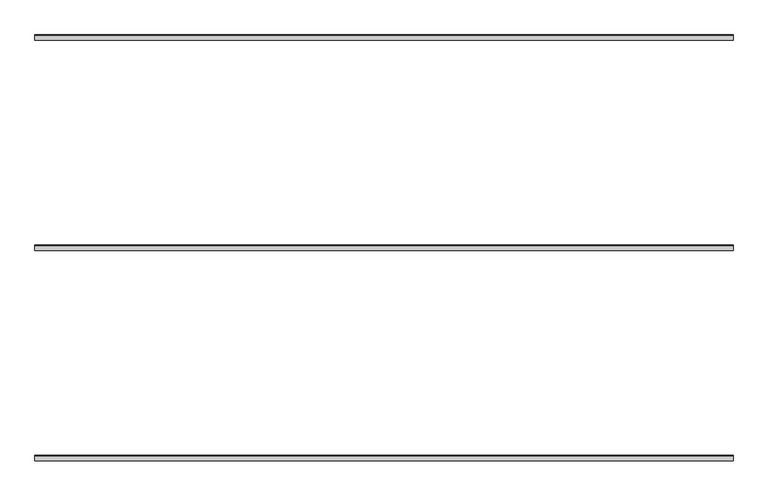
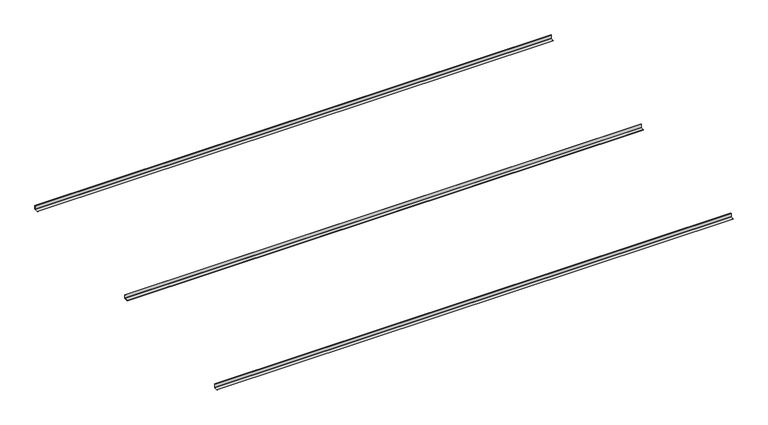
"""IFC4 building model written with IfcOpenShell, lengths in millimetres: proxy geometry, durlum_S-OMEGA-100 : durlum_S-OMEGA-100."""

from ifc_helpers import new_model, si_unit, point, frame, frame_2d, origin, place, context, project, spatial, polyline, circle_curve, trimmed, segment, composite_curve, outline, extrude, source, transform, mapped, element, save


def generic_models_2307843b(model_context):
    return source(origin(), model_context, "Body", "SweptSolid", [
        extrude(outline(composite_curve([segment(polyline([(-2.0, 3903.9), (0.0, 3903.9), (0.0, 3878.0)]), True, "CONTINUOUS"), segment(trimmed(circle_curve(frame_2d((-4.0, 3878.0)), 4.0), [point((0.0, 3878.0))], [point((-4.0, 3874.0))], False, "CARTESIAN"), True, "CONTINUOUS"), segment(polyline([(-4.0, 3874.0), (-29.9, 3874.0), (-29.9, 3876.0), (-4.0, 3876.0)]), True, "CONTINUOUS"), segment(trimmed(circle_curve(frame_2d((-4.0, 3878.0)), 2.0), [point((-4.0, 3876.0))], [point((-2.0, 3878.0))], True, "CARTESIAN"), True, "CONTINUOUS"), segment(polyline([(-2.0, 3878.0), (-2.0, 3903.9)]), True, "CONTINUOUS")], self_intersect=False)), frame((-1990.0, 0.0, 0.0), z_axis=(1.0, 0.0, 0.0), x_axis=(0.0, 1.0, 0.0)), (0.0, 0.0, 1.0), 3980.0),
        extrude(outline(composite_curve([segment(polyline([(-1202.0, 3903.9), (-1200.0, 3903.9), (-1200.0, 3878.0)]), True, "CONTINUOUS"), segment(trimmed(circle_curve(frame_2d((-1204.0, 3878.0)), 4.0), [point((-1200.0, 3878.0))], [point((-1204.0, 3874.0))], False, "CARTESIAN"), True, "CONTINUOUS"), segment(polyline([(-1204.0, 3874.0), (-1229.9, 3874.0), (-1229.9, 3876.0), (-1204.0, 3876.0)]), True, "CONTINUOUS"), segment(trimmed(circle_curve(frame_2d((-1204.0, 3878.0)), 2.0), [point((-1204.0, 3876.0))], [point((-1202.0, 3878.0))], True, "CARTESIAN"), True, "CONTINUOUS"), segment(polyline([(-1202.0, 3878.0), (-1202.0, 3903.9)]), True, "CONTINUOUS")], self_intersect=False)), frame((-1990.0, 0.0, 0.0), z_axis=(1.0, 0.0, 0.0), x_axis=(0.0, 1.0, 0.0)), (0.0, 0.0, 1.0), 3980.0),
        extrude(outline(composite_curve([segment(polyline([(1198.0, 3903.9), (1200.0, 3903.9), (1200.0, 3878.0)]), True, "CONTINUOUS"), segment(trimmed(circle_curve(frame_2d((1196.0, 3878.0)), 4.0), [point((1200.0, 3878.0))], [point((1196.0, 3874.0))], False, "CARTESIAN"), True, "CONTINUOUS"), segment(polyline([(1196.0, 3874.0), (1170.1, 3874.0), (1170.1, 3876.0), (1196.0, 3876.0)]), True, "CONTINUOUS"), segment(trimmed(circle_curve(frame_2d((1196.0, 3878.0)), 2.0), [point((1196.0, 3876.0))], [point((1198.0, 3878.0))], True, "CARTESIAN"), True, "CONTINUOUS"), segment(polyline([(1198.0, 3878.0), (1198.0, 3903.9)]), True, "CONTINUOUS")], self_intersect=False)), frame((-1990.0, 0.0, 0.0), z_axis=(1.0, 0.0, 0.0), x_axis=(0.0, 1.0, 0.0)), (0.0, 0.0, 1.0), 3980.0),
    ])


if __name__ == "__main__":
    model = new_model("IFC4")
    model_context = context("Model", 3, world=origin())
    ifc_project = project(units=[si_unit("LENGTHUNIT", "METRE", prefix="MILLI")], contexts=[model_context])
    site = spatial("IfcSite", under=ifc_project)
    building = spatial("IfcBuilding", under=site)
    placement = place(None, origin())
    generic_models_shape = generic_models_2307843b(model_context)
    element("IfcBuildingElementProxy", 1, Name="durlum_S-OMEGA-100 : durlum_S-OMEGA-100", ObjectType="durlum_S-OMEGA-100 : durlum_S-OMEGA-100", at=placement, inside=building, context=model_context, shape_type="MappedRepresentation", body=[
        mapped(generic_models_shape, transform((0.0, 0.0, 0.0), x_axis=(1.0, 0.0, 0.0), y_axis=(0.0, 1.0, 0.0), z_axis=(0.0, 0.0, 1.0))),
    ])
    save(model, "model.ifc")
